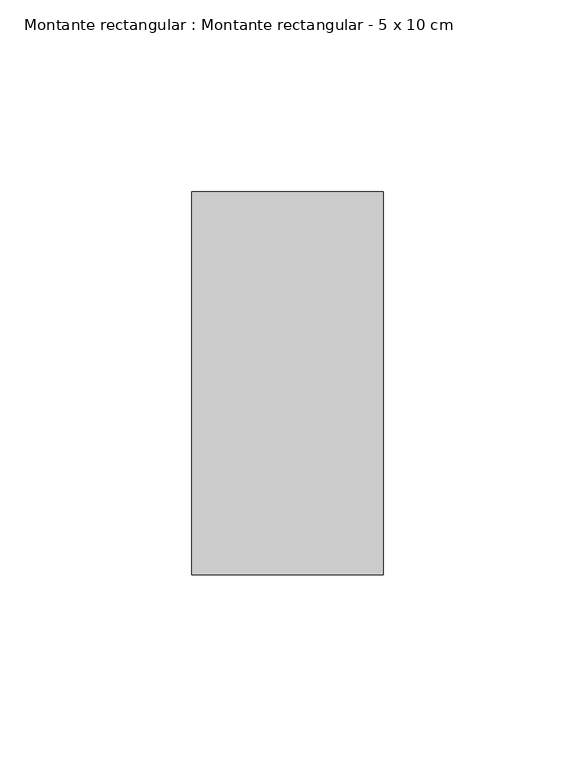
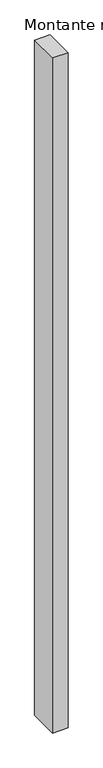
"""IFC4 building model written with IfcOpenShell, lengths in millimetres: member geometry, Montante rectangular : Montante rectangular - 5 x 10 cm."""

from ifc_helpers import new_model, si_unit, frame, origin, place, context, project, spatial, polyline, outline, extrude, source, transform, mapped, element, save


def montante_rectangular_montante_rectangular_5_x_10_cm_691e8951(model_context):
    return source(origin(), model_context, "Body", "SweptSolid", [
        extrude(outline(polyline([(-50.0, 50.0), (0.0, 50.0), (0.0, -50.0), (-50.0, -50.0), (-50.0, 50.0)])), frame((0.0, 0.0, -2305.0), z_axis=(0.0, 0.0, 1.0), x_axis=(1.0, 0.0, 0.0)), (0.0, 0.0, 1.0), 2305.0),
    ])


if __name__ == "__main__":
    model = new_model("IFC4")
    model_context = context("Model", 3, world=origin())
    ifc_project = project(units=[si_unit("LENGTHUNIT", "METRE", prefix="MILLI")], contexts=[model_context])
    site = spatial("IfcSite", under=ifc_project)
    building = spatial("IfcBuilding", under=site)
    placement = place(None, origin())
    montante_rectangular_montante_rectangular_5_x_10_cm_shape = montante_rectangular_montante_rectangular_5_x_10_cm_691e8951(model_context)
    element("IfcMember", 1, ObjectType="Montante rectangular : Montante rectangular - 5 x 10 cm", at=placement, inside=building, context=model_context, shape_type="MappedRepresentation", body=[
        mapped(montante_rectangular_montante_rectangular_5_x_10_cm_shape, transform((0.0, 0.0, 0.0), x_axis=(1.0, 0.0, 0.0), y_axis=(0.0, 1.0, 0.0), z_axis=(0.0, 0.0, 1.0))),
    ])
    save(model, "model.ifc")
